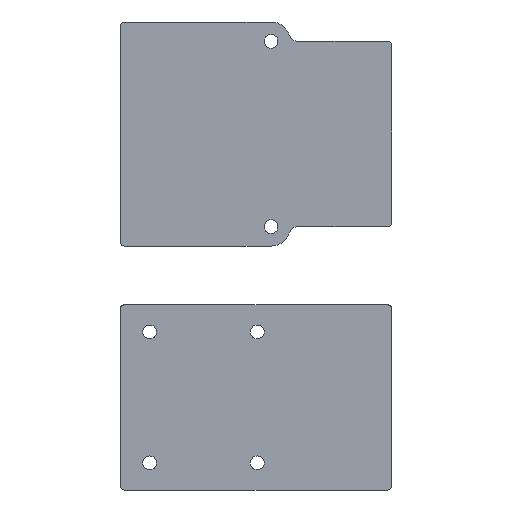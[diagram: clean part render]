
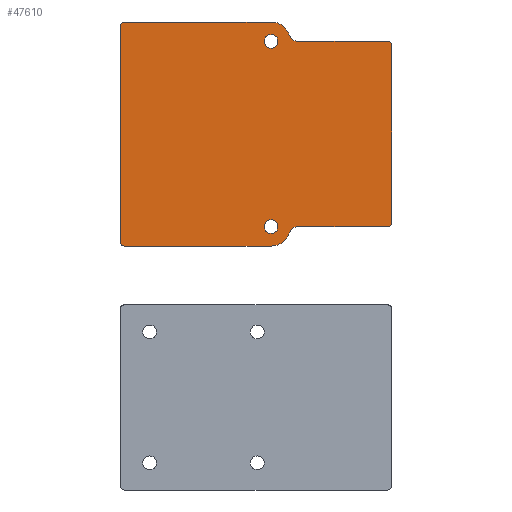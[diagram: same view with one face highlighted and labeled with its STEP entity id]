
A CAD part, front view. The second image highlights one B-rep face of the part: STEP entity #47610.
In plain terms, the highlighted planar face has unit normal (0, -1, 0) as drawn and (0, 0, 1) by its records, which use the part's own axes.
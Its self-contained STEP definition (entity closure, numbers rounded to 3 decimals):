
#1037=CIRCLE('',#51954,1.6);
#1039=CIRCLE('',#51957,1.6);
#1041=CIRCLE('',#51960,1.);
#1042=CIRCLE('',#51962,1.);
#1043=CIRCLE('',#51963,4.5);
#1044=CIRCLE('',#51964,2.);
#1045=CIRCLE('',#51965,1.);
#1046=CIRCLE('',#51966,1.);
#1047=CIRCLE('',#51967,2.);
#1048=CIRCLE('',#51968,4.5);
#1469=FACE_BOUND('',#6274,.T.);
#1470=FACE_BOUND('',#6275,.T.);
#3601=FACE_OUTER_BOUND('',#6273,.T.);
#6273=EDGE_LOOP('',(#32489,#32490,#32491,#32492,#32493,#32494,#32495,#32496,
#32497,#32498,#32499,#32500,#32501,#32502));
#6274=EDGE_LOOP('',(#32503));
#6275=EDGE_LOOP('',(#32504));
#9337=LINE('',#68810,#15167);
#9357=LINE('',#68906,#15187);
#9358=LINE('',#68912,#15188);
#9359=LINE('',#68916,#15189);
#9360=LINE('',#68920,#15190);
#9361=LINE('',#68925,#15191);
#15167=VECTOR('',#55409,10.);
#15187=VECTOR('',#55517,10.);
#15188=VECTOR('',#55522,10.);
#15189=VECTOR('',#55525,10.);
#15190=VECTOR('',#55528,10.);
#15191=VECTOR('',#55533,10.);
#21012=VERTEX_POINT('',#68796);
#21018=VERTEX_POINT('',#68808);
#21044=VERTEX_POINT('',#68887);
#21046=VERTEX_POINT('',#68893);
#21048=VERTEX_POINT('',#68899);
#21049=VERTEX_POINT('',#68903);
#21050=VERTEX_POINT('',#68905);
#21051=VERTEX_POINT('',#68907);
#21052=VERTEX_POINT('',#68909);
#21053=VERTEX_POINT('',#68911);
#21054=VERTEX_POINT('',#68913);
#21055=VERTEX_POINT('',#68915);
#21056=VERTEX_POINT('',#68917);
#21057=VERTEX_POINT('',#68919);
#21058=VERTEX_POINT('',#68921);
#21059=VERTEX_POINT('',#68923);
#25427=EDGE_CURVE('',#21012,#21018,#9337,.T.);
#25462=EDGE_CURVE('',#21044,#21044,#1037,.T.);
#25465=EDGE_CURVE('',#21046,#21046,#1039,.T.);
#25467=EDGE_CURVE('',#21012,#21048,#1041,.T.);
#25469=EDGE_CURVE('',#21049,#21018,#1042,.T.);
#25470=EDGE_CURVE('',#21049,#21050,#9357,.T.);
#25471=EDGE_CURVE('',#21051,#21050,#1043,.T.);
#25472=EDGE_CURVE('',#21052,#21051,#1044,.T.);
#25473=EDGE_CURVE('',#21052,#21053,#9358,.T.);
#25474=EDGE_CURVE('',#21054,#21053,#1045,.T.);
#25475=EDGE_CURVE('',#21054,#21055,#9359,.T.);
#25476=EDGE_CURVE('',#21056,#21055,#1046,.T.);
#25477=EDGE_CURVE('',#21056,#21057,#9360,.T.);
#25478=EDGE_CURVE('',#21058,#21057,#1047,.T.);
#25479=EDGE_CURVE('',#21059,#21058,#1048,.T.);
#25480=EDGE_CURVE('',#21059,#21048,#9361,.T.);
#32489=ORIENTED_EDGE('',*,*,#25467,.F.);
#32490=ORIENTED_EDGE('',*,*,#25427,.T.);
#32491=ORIENTED_EDGE('',*,*,#25469,.F.);
#32492=ORIENTED_EDGE('',*,*,#25470,.T.);
#32493=ORIENTED_EDGE('',*,*,#25471,.F.);
#32494=ORIENTED_EDGE('',*,*,#25472,.F.);
#32495=ORIENTED_EDGE('',*,*,#25473,.T.);
#32496=ORIENTED_EDGE('',*,*,#25474,.F.);
#32497=ORIENTED_EDGE('',*,*,#25475,.T.);
#32498=ORIENTED_EDGE('',*,*,#25476,.F.);
#32499=ORIENTED_EDGE('',*,*,#25477,.T.);
#32500=ORIENTED_EDGE('',*,*,#25478,.F.);
#32501=ORIENTED_EDGE('',*,*,#25479,.F.);
#32502=ORIENTED_EDGE('',*,*,#25480,.T.);
#32503=ORIENTED_EDGE('',*,*,#25462,.T.);
#32504=ORIENTED_EDGE('',*,*,#25465,.T.);
#45275=PLANE('',#51961);
#47610=ADVANCED_FACE('',(#3601,#1469,#1470),#45275,.T.);
#51954=AXIS2_PLACEMENT_3D('',#68889,#55497,#55498);
#51957=AXIS2_PLACEMENT_3D('',#68895,#55504,#55505);
#51960=AXIS2_PLACEMENT_3D('',#68900,#55510,#55511);
#51961=AXIS2_PLACEMENT_3D('',#68902,#55513,#55514);
#51962=AXIS2_PLACEMENT_3D('',#68904,#55515,#55516);
#51963=AXIS2_PLACEMENT_3D('',#68908,#55518,#55519);
#51964=AXIS2_PLACEMENT_3D('',#68910,#55520,#55521);
#51965=AXIS2_PLACEMENT_3D('',#68914,#55523,#55524);
#51966=AXIS2_PLACEMENT_3D('',#68918,#55526,#55527);
#51967=AXIS2_PLACEMENT_3D('',#68922,#55529,#55530);
#51968=AXIS2_PLACEMENT_3D('',#68924,#55531,#55532);
#55409=DIRECTION('',(0.,-1.,0.));
#55497=DIRECTION('center_axis',(0.,0.,-1.));
#55498=DIRECTION('ref_axis',(-1.,0.,0.));
#55504=DIRECTION('center_axis',(0.,0.,-1.));
#55505=DIRECTION('ref_axis',(-1.,0.,0.));
#55510=DIRECTION('center_axis',(0.,0.,-1.));
#55511=DIRECTION('ref_axis',(-0.707,0.707,0.));
#55513=DIRECTION('center_axis',(0.,0.,1.));
#55514=DIRECTION('ref_axis',(1.,0.,0.));
#55515=DIRECTION('center_axis',(0.,0.,-1.));
#55516=DIRECTION('ref_axis',(-0.707,-0.707,0.));
#55517=DIRECTION('',(1.,0.,0.));
#55518=DIRECTION('center_axis',(0.,0.,-1.));
#55519=DIRECTION('ref_axis',(1.,0.,0.));
#55520=DIRECTION('center_axis',(0.,0.,1.));
#55521=DIRECTION('ref_axis',(-0.588,0.809,0.));
#55522=DIRECTION('',(1.,0.,0.));
#55523=DIRECTION('center_axis',(0.,0.,-1.));
#55524=DIRECTION('ref_axis',(0.707,-0.707,0.));
#55525=DIRECTION('',(0.,1.,0.));
#55526=DIRECTION('center_axis',(0.,0.,-1.));
#55527=DIRECTION('ref_axis',(0.707,0.707,0.));
#55528=DIRECTION('',(-1.,0.,0.));
#55529=DIRECTION('center_axis',(0.,0.,1.));
#55530=DIRECTION('ref_axis',(-0.588,-0.809,0.));
#55531=DIRECTION('center_axis',(0.,0.,-1.));
#55532=DIRECTION('ref_axis',(1.,0.,0.));
#55533=DIRECTION('',(-1.,0.,0.));
#68796=CARTESIAN_POINT('',(-17.5,25.,8.));
#68808=CARTESIAN_POINT('',(-17.5,-25.,8.));
#68810=CARTESIAN_POINT('',(-17.5,26.,8.));
#68887=CARTESIAN_POINT('',(19.1,21.5,8.));
#68889=CARTESIAN_POINT('Origin',(17.5,21.5,8.));
#68893=CARTESIAN_POINT('',(19.1,-21.5,8.));
#68895=CARTESIAN_POINT('Origin',(17.5,-21.5,8.));
#68899=CARTESIAN_POINT('',(-16.5,26.,8.));
#68900=CARTESIAN_POINT('Origin',(-16.5,25.,8.));
#68902=CARTESIAN_POINT('Origin',(14.,0.,8.));
#68903=CARTESIAN_POINT('',(-16.5,-26.,8.));
#68904=CARTESIAN_POINT('Origin',(-16.5,-25.,8.));
#68905=CARTESIAN_POINT('',(17.5,-26.,8.));
#68906=CARTESIAN_POINT('',(-17.5,-26.,8.));
#68907=CARTESIAN_POINT('',(21.782,-22.885,8.));
#68908=CARTESIAN_POINT('Origin',(17.5,-21.5,8.));
#68909=CARTESIAN_POINT('',(23.685,-21.5,8.));
#68910=CARTESIAN_POINT('Origin',(23.685,-23.5,8.));
#68911=CARTESIAN_POINT('',(44.5,-21.5,8.));
#68912=CARTESIAN_POINT('',(-17.5,-21.5,8.));
#68913=CARTESIAN_POINT('',(45.5,-20.5,8.));
#68914=CARTESIAN_POINT('Origin',(44.5,-20.5,8.));
#68915=CARTESIAN_POINT('',(45.5,20.5,8.));
#68916=CARTESIAN_POINT('',(45.5,-21.5,8.));
#68917=CARTESIAN_POINT('',(44.5,21.5,8.));
#68918=CARTESIAN_POINT('Origin',(44.5,20.5,8.));
#68919=CARTESIAN_POINT('',(23.685,21.5,8.));
#68920=CARTESIAN_POINT('',(45.5,21.5,8.));
#68921=CARTESIAN_POINT('',(21.782,22.885,8.));
#68922=CARTESIAN_POINT('Origin',(23.685,23.5,8.));
#68923=CARTESIAN_POINT('',(17.5,26.,8.));
#68924=CARTESIAN_POINT('Origin',(17.5,21.5,8.));
#68925=CARTESIAN_POINT('',(17.5,26.,8.));
